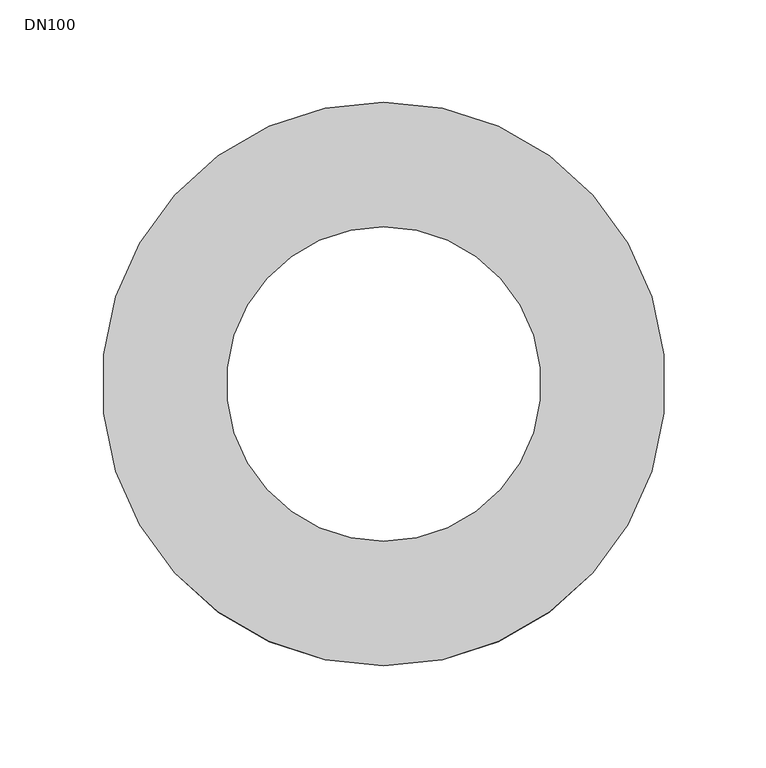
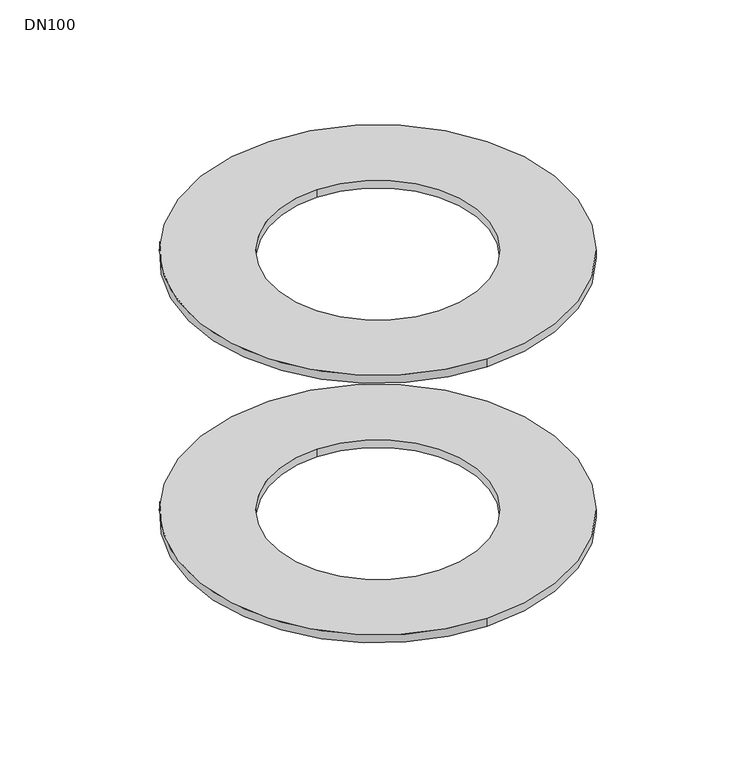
"""IFC4 building model written with IfcOpenShell, lengths in millimetres: sanitary terminal geometry, PF_GEN_configurable gully double body Passavant Spin_ACO : DN100."""

from ifc_helpers import new_model, si_unit, point, frame, origin, origin_2d, place, context, project, spatial, circle_curve, trimmed, segment, composite_curve, outline, extrude, source, transform, mapped, element, save


def dn100_e2e893b6(model_context):
    return source(origin(), model_context, "Body", "SweptSolid", [
        extrude(outline(composite_curve([segment(trimmed(circle_curve(origin_2d(), 138.0), [point((0.0, -138.0))], [point((0.0, 138.0))], False, "CARTESIAN"), True, "CONTINUOUS"), segment(trimmed(circle_curve(origin_2d(), 138.0), [point((0.0, 138.0))], [point((0.0, -138.0))], False, "CARTESIAN"), True, "CONTINUOUS")], self_intersect=False), holes=[composite_curve([segment(trimmed(circle_curve(origin_2d(), 77.0), [point((0.0, -77.0))], [point((0.0, 77.0))], True, "CARTESIAN"), True, "CONTINUOUS"), segment(trimmed(circle_curve(origin_2d(), 77.0), [point((0.0, 77.0))], [point((0.0, -77.0))], True, "CARTESIAN"), True, "CONTINUOUS")], self_intersect=False)]), frame((0.0, 0.0, 205.0), z_axis=(0.0, 0.0, 1.0), x_axis=(1.0, 0.0, 0.0)), (0.0, 0.0, 1.0), 6.0),
        extrude(outline(composite_curve([segment(trimmed(circle_curve(origin_2d(), 138.0), [point((0.0, -138.0))], [point((0.0, 138.0))], False, "CARTESIAN"), True, "CONTINUOUS"), segment(trimmed(circle_curve(origin_2d(), 138.0), [point((0.0, 138.0))], [point((0.0, -138.0))], False, "CARTESIAN"), True, "CONTINUOUS")], self_intersect=False), holes=[composite_curve([segment(trimmed(circle_curve(origin_2d(), 77.0), [point((0.0, -77.0))], [point((0.0, 77.0))], True, "CARTESIAN"), True, "CONTINUOUS"), segment(trimmed(circle_curve(origin_2d(), 77.0), [point((0.0, 77.0))], [point((0.0, -77.0))], True, "CARTESIAN"), True, "CONTINUOUS")], self_intersect=False)]), frame((0.0, 0.0, 5.0), z_axis=(0.0, 0.0, 1.0), x_axis=(1.0, 0.0, 0.0)), (0.0, 0.0, 1.0), 6.0),
    ])


if __name__ == "__main__":
    model = new_model("IFC4")
    model_context = context("Model", 3, world=origin())
    ifc_project = project(units=[si_unit("LENGTHUNIT", "METRE", prefix="MILLI")], contexts=[model_context])
    site = spatial("IfcSite", under=ifc_project)
    building = spatial("IfcBuilding", under=site)
    placement = place(None, origin())
    dn100_shape = dn100_e2e893b6(model_context)
    element("IfcSanitaryTerminal", 1, ObjectType="PF_GEN_configurable gully double body Passavant Spin_ACO : DN100", at=placement, inside=building, context=model_context, shape_type="MappedRepresentation", body=[
        mapped(dn100_shape, transform((0.0, 0.0, 0.0), x_axis=(1.0, 0.0, 0.0), y_axis=(0.0, 1.0, 0.0), z_axis=(0.0, 0.0, 1.0))),
    ])
    save(model, "model.ifc")
